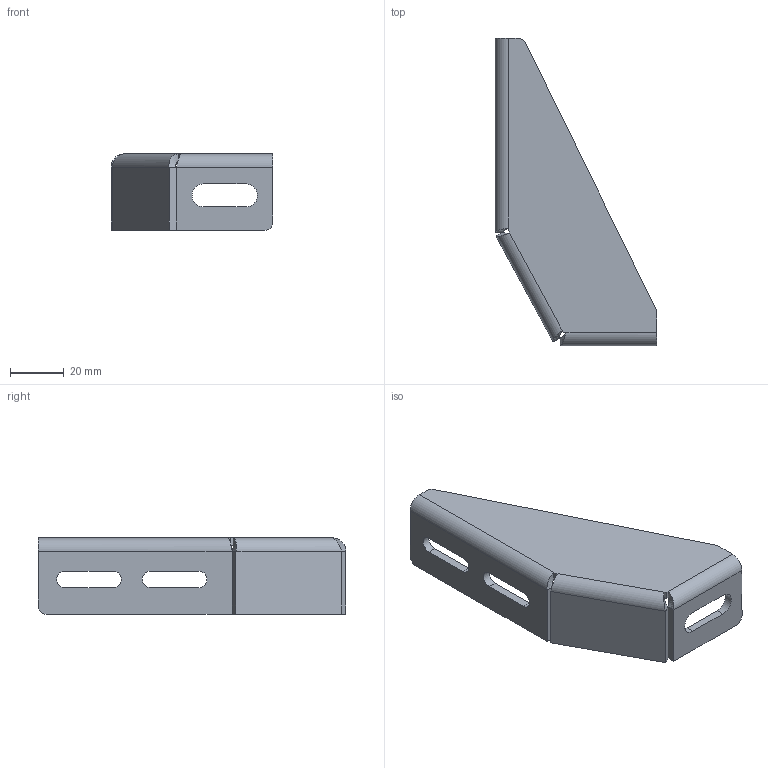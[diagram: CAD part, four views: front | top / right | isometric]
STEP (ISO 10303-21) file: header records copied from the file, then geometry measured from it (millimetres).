
FILE_DESCRIPTION (( 'STEP AP214' ), '1' );
FILE_NAME ('7142S.STEP', '2015-10-16T10:12:52', ( '' ), ( '' ), 'SwSTEP 2.0', 'SolidWorks 2014', '' );
FILE_SCHEMA (( 'AUTOMOTIVE_DESIGN' ));
Length unit declared in the file: millimetre
Products named in the file (1): 7142S
Bounding box: 60.5 x 115 x 28.5 mm (x, y, z)
Volume: 21349.3 mm3; surface area: 16112.6 mm2
Topology: 1 solids, 1 shells, 52 faces, 126 edges, 76 vertices
Faces by surface type: plane 32, cylinder 16, bspline 4
Entity records: 1784 total; most frequent: CARTESIAN_POINT 539, ORIENTED_EDGE 252, DIRECTION 240, EDGE_CURVE 126, VECTOR 94, LINE 94, VERTEX_POINT 76, AXIS2_PLACEMENT_3D 73
